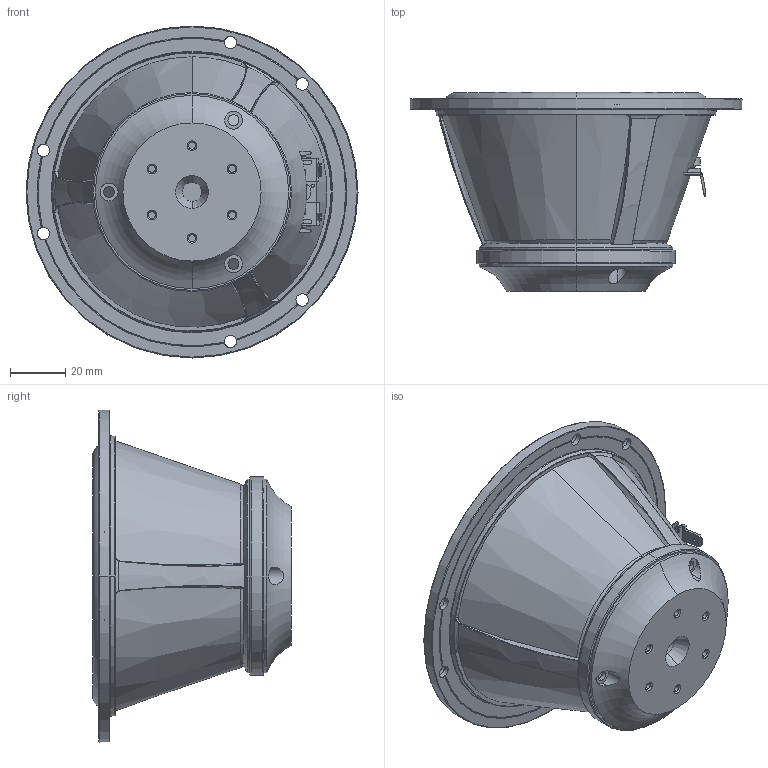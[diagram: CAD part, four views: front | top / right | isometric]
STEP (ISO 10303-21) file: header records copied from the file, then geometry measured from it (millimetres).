
FILE_DESCRIPTION (( 'STEP AP214' ), '1' );
FILE_NAME ('12MU-8731T00.STEP', '2020-11-23T11:31:02', ( '' ), ( '' ), 'SwSTEP 2.0', 'SolidWorks 2019', '' );
FILE_SCHEMA (( 'AUTOMOTIVE_DESIGN' ));
Length unit declared in the file: millimetre
Products named in the file (1): 12MU-8731T00
Bounding box: 120.13 x 71.95 x 120.13 mm (x, y, z)
Volume: 329599.8 mm3; surface area: 44410.4 mm2
Topology: 1 solids, 4 shells, 523 faces, 1366 edges, 857 vertices
Faces by surface type: bspline 144, cylinder 120, plane 100, cone 73, torus 70, sphere 16
Entity records: 28572 total; most frequent: CARTESIAN_POINT 11492, ORIENTED_EDGE 2684, DIRECTION 2212, EDGE_CURVE 1342, AXIS2_PLACEMENT_3D 970, VERTEX_POINT 845, CIRCLE 590, EDGE_LOOP 563
